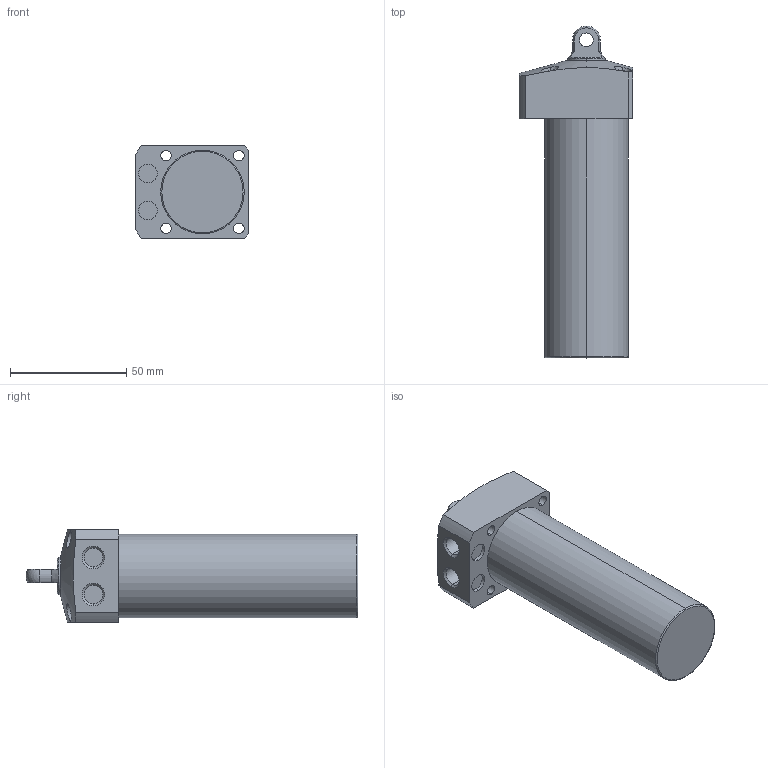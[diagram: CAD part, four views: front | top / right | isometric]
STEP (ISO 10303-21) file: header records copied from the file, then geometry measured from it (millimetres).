
FILE_DESCRIPTION (( 'STEP AP203' ), '1' );
FILE_NAME ('CLL036-CP-080.STEP', '2017-05-17T06:25:43', ( '' ), ( '' ), 'SwSTEP 2.0', 'SolidWorks 2015', '' );
FILE_SCHEMA (( 'CONFIG_CONTROL_DESIGN' ));
Length unit declared in the file: millimetre
Products named in the file (1): CLL036-CP-080
Bounding box: 49 x 143 x 40 mm (x, y, z)
Volume: 146229.9 mm3; surface area: 21696.8 mm2
Topology: 1 solids, 1 shells, 67 faces, 162 edges, 105 vertices
Faces by surface type: cylinder 34, plane 21, cone 8, sphere 2, torus 2
Entity records: 2347 total; most frequent: CARTESIAN_POINT 663, DIRECTION 354, ORIENTED_EDGE 316, EDGE_CURVE 158, AXIS2_PLACEMENT_3D 148, VERTEX_POINT 103, EDGE_LOOP 87, CIRCLE 80
